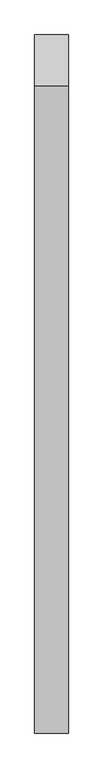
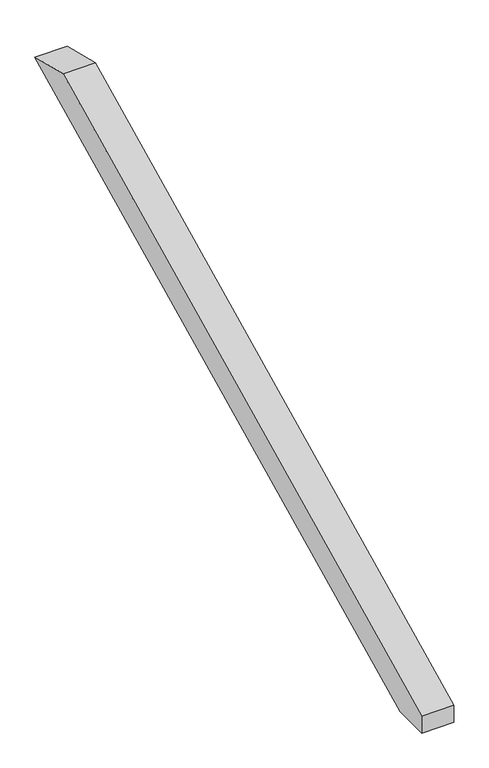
"""IFC4 building model written with IfcOpenShell, lengths in millimetres: proxy geometry, Modelos genéricos 17 : Modelos genéricos 16."""

from ifc_helpers import new_model, si_unit, frame, origin, place, context, project, spatial, polyline, outline, extrude, source, transform, mapped, element, save


def generic_models_390dc48b(model_context):
    return source(origin(), model_context, "Body", "SweptSolid", [
        extrude(outline(polyline([(3173.8548825, 3756.8218964), (3264.4256133, 3734.240077), (2087.0589775, 3160.0), (2018.6238165, 3160.0), (2018.6238165, 3193.3780582), (3173.8548825, 3756.8218964)])), frame((-12676.5527533, 0.0, 0.0), z_axis=(1.0, 0.0, 0.0), x_axis=(0.0, 1.0, 0.0)), (0.0, 0.0, 1.0), 60.0),
    ])


if __name__ == "__main__":
    model = new_model("IFC4")
    model_context = context("Model", 3, world=origin())
    ifc_project = project(units=[si_unit("LENGTHUNIT", "METRE", prefix="MILLI")], contexts=[model_context])
    site = spatial("IfcSite", under=ifc_project)
    building = spatial("IfcBuilding", under=site)
    placement = place(None, origin())
    generic_models_shape = generic_models_390dc48b(model_context)
    element("IfcBuildingElementProxy", 1, Name="Modelos genéricos 17 : Modelos genéricos 16", ObjectType="Modelos genéricos 17 : Modelos genéricos 16", at=placement, inside=building, context=model_context, shape_type="MappedRepresentation", body=[
        mapped(generic_models_shape, transform((0.0, 0.0, 0.0), x_axis=(1.0, 0.0, 0.0), y_axis=(0.0, 1.0, 0.0), z_axis=(0.0, 0.0, 1.0))),
    ])
    save(model, "model.ifc")
